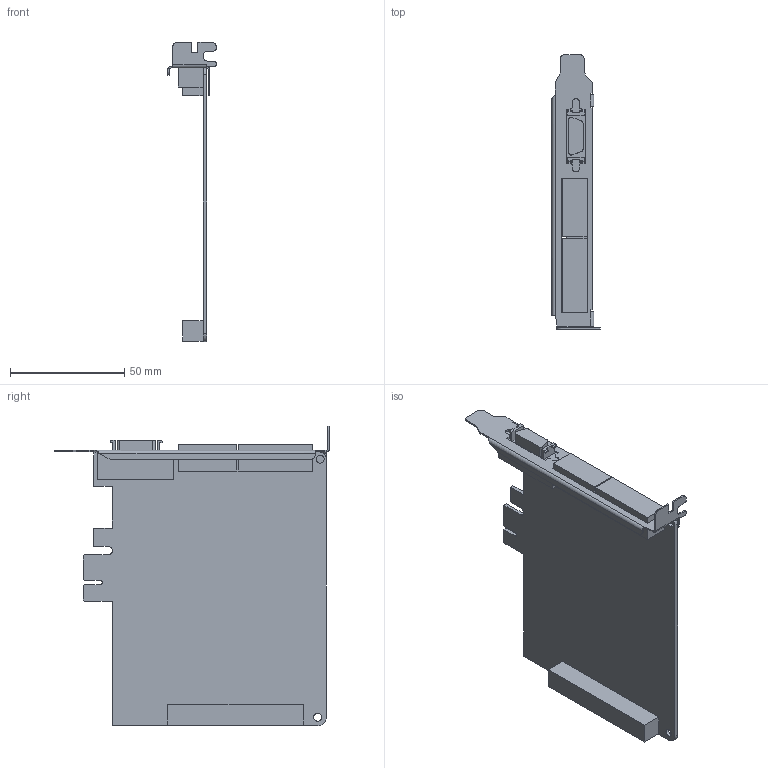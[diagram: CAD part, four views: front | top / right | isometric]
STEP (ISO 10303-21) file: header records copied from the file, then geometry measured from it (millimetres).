
FILE_DESCRIPTION((''),'2;1');
FILE_NAME('000-XPCIE1208_ASM','2024-07-16T18:53:10',('admin'),(''),'CREO PARAMETRIC BY PTC INC, 2021063','CREO PARAMETRIC BY PTC INC, 2021063','');
FILE_SCHEMA(('CONFIG_CONTROL_DESIGN','SHAPE_APPEARANCE_LAYERS_GROUPS'));
Length unit declared in the file: millimetre
Products named in the file (3): 00; PCB0; 000-XPCIE1208_ASM
Assembly tree (2 placements, depth 2):
  000-XPCIE1208_ASM
    00
    PCB0
Bounding box: 21.15 x 120.2 x 131.23 mm (x, y, z)
Volume: 36178.9 mm3; surface area: 32455.2 mm2
Topology: 2 solids, 2 shells, 204 faces, 546 edges, 352 vertices
Faces by surface type: plane 153, cylinder 50, bspline 1
Entity records: 6707 total; most frequent: CARTESIAN_POINT 1168, ORIENTED_EDGE 1092, DIRECTION 1056, EDGE_CURVE 546, VECTOR 444, LINE 444, VERTEX_POINT 352, AXIS2_PLACEMENT_3D 306
